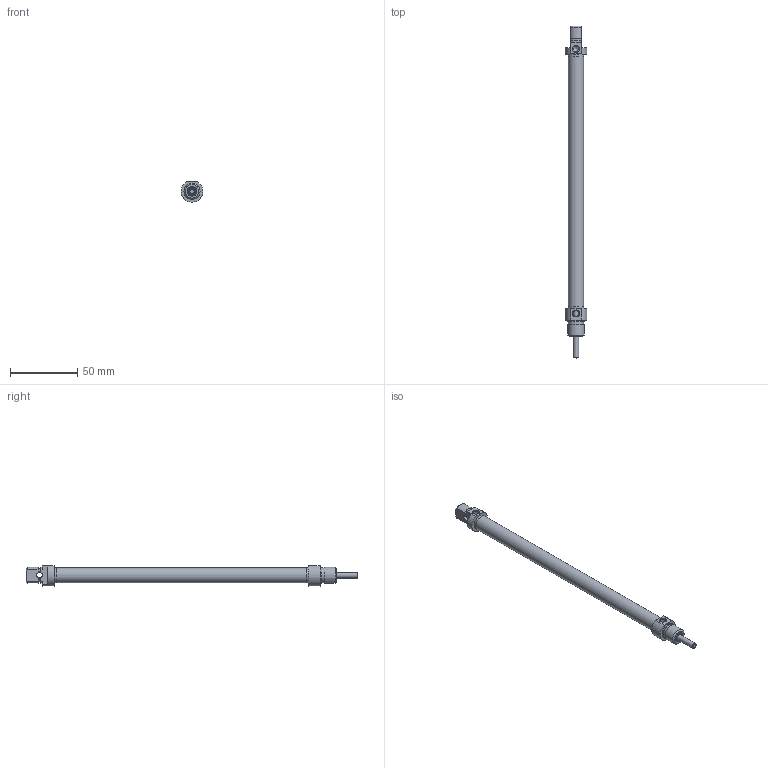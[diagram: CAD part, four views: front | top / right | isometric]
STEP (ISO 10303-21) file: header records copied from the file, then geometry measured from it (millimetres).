
FILE_DESCRIPTION((''),'2;1');
FILE_NAME('T:\Archivio Inventor\- 00 NUOVI STP PER SITO CON STELO CHE SI MUOVE\SERIE O\ODM\ODM010.---.GS.M\ODM010.160.GS.M.stp','2014-02-25T14:20:40',('carlo.corazza'),(''),'Autodesk Inventor 2012','Autodesk Inventor 2012','');
FILE_SCHEMA(('AUTOMOTIVE_DESIGN { 1 0 10303 214 1 1 1 1 }'));
Length unit declared in the file: millimetre
Products named in the file (5): ODM010..GS.M; TP; CORPO-160; TA; STELO-160
Assembly tree (4 placements, depth 2):
  ODM010..GS.M
    TP
    CORPO-160
    TA
    STELO-160
Bounding box: 16 x 246 x 15 mm (x, y, z)
Volume: 11792 mm3; surface area: 18466.7 mm2
Topology: 4 solids, 4 shells, 90 faces, 185 edges, 118 vertices
Faces by surface type: plane 32, cylinder 28, cone 23, torus 7
Full cylindrical faces by diameter (mm): 3 x1, 4 x2, 4.134 x2, 4.426 x1, 4.7 x1, 6.5 x1, 6.6 x1, 6.7 x1, 8.1 x1, 8.2 x1, 10 x1, 11.2 x3, 11.27 x1, 12 x2
Entity records: 2347 total; most frequent: CARTESIAN_POINT 410, DIRECTION 404, ORIENTED_EDGE 260, AXIS2_PLACEMENT_3D 184, EDGE_LOOP 154, EDGE_CURVE 130, VERTEX_POINT 108, FACE_OUTER_BOUND 90
